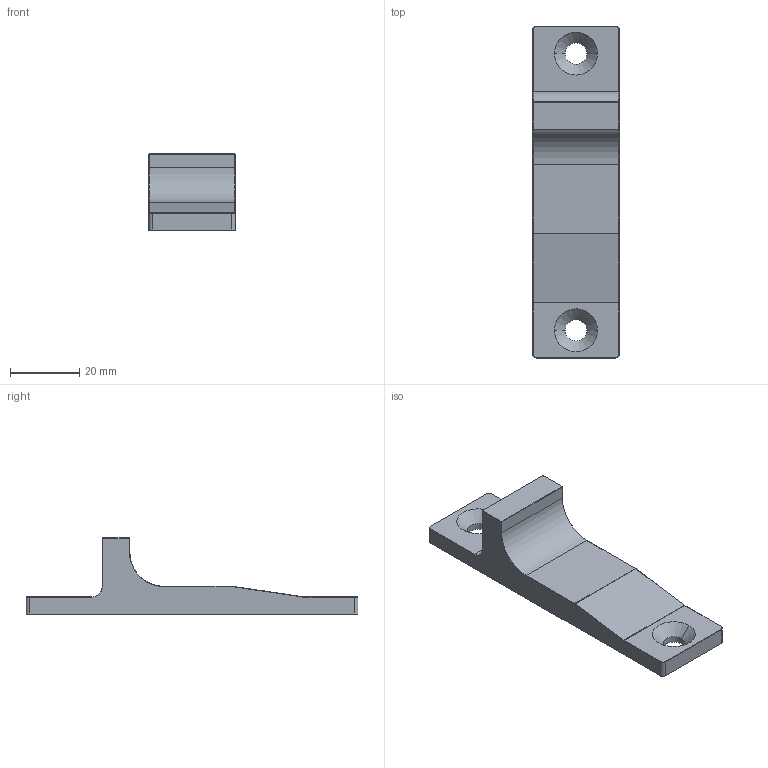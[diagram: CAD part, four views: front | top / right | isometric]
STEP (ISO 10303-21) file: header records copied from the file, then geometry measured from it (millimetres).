
FILE_DESCRIPTION (( 'STEP AP203' ), '1' );
FILE_NAME ('DFB-2020.STEP', '2013-12-20T07:02:24', ( 'SDS' ), ( 'SDS' ), 'SwSTEP 2.0', 'SolidWorks 2002296', '' );
FILE_SCHEMA (( 'CONFIG_CONTROL_DESIGN' ));
Length unit declared in the file: millimetre
Products named in the file (1): DFB-2020
Bounding box: 25 x 96 x 22 mm (x, y, z)
Volume: 18427.3 mm3; surface area: 7207.8 mm2
Topology: 1 solids, 1 shells, 58 faces, 140 edges, 84 vertices
Faces by surface type: plane 30, cone 16, cylinder 12
Entity records: 1745 total; most frequent: DIRECTION 298, CARTESIAN_POINT 283, ORIENTED_EDGE 280, EDGE_CURVE 140, LINE 100, VECTOR 100, AXIS2_PLACEMENT_3D 99, VERTEX_POINT 84
